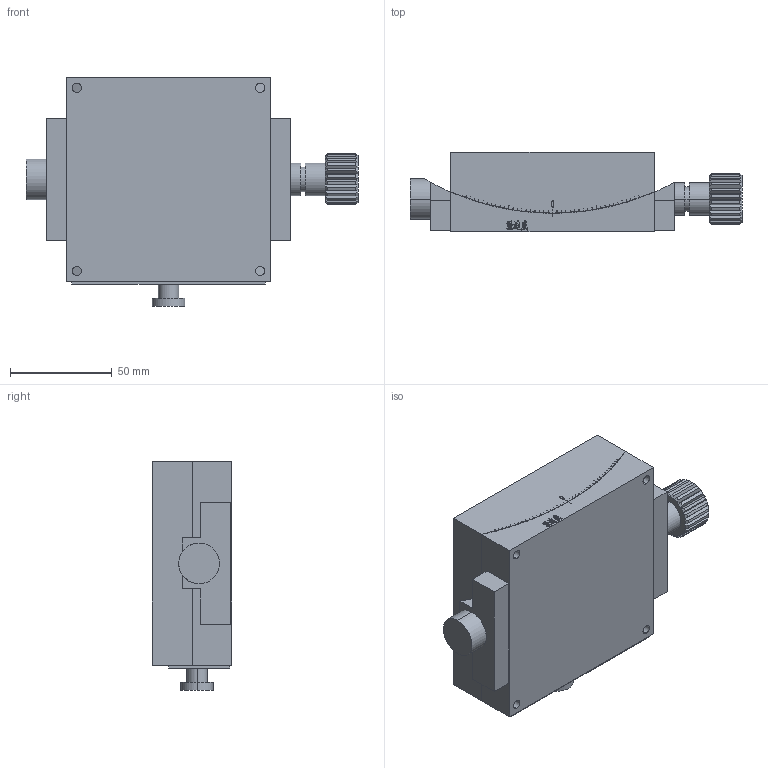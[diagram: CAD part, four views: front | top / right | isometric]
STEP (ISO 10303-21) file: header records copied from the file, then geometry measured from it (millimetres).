
FILE_DESCRIPTION (( 'STEP AP214' ), '1' );
FILE_NAME ('PT-SD395.STEP', '2022-12-03T02:01:24', ( '' ), ( '' ), 'SwSTEP 2.0', 'SolidWorks 2017', '' );
FILE_SCHEMA (( 'AUTOMOTIVE_DESIGN' ));
Length unit declared in the file: millimetre
Products named in the file (3): PT-SD350-4; PT-SD395; PT-SD350-3
Assembly tree (2 placements, depth 2):
  PT-SD395
    PT-SD350-3
    PT-SD350-4
Bounding box: 163 x 39 x 112.4 mm (x, y, z)
Volume: 426331.9 mm3; surface area: 71787.9 mm2
Topology: 2 solids, 2 shells, 768 faces, 2170 edges, 1411 vertices
Faces by surface type: plane 490, cylinder 96, bspline 92, cone 90
Entity records: 29412 total; most frequent: CARTESIAN_POINT 9699, ORIENTED_EDGE 4256, DIRECTION 3524, EDGE_CURVE 2128, LINE 1516, VECTOR 1516, VERTEX_POINT 1411, AXIS2_PLACEMENT_3D 1004
